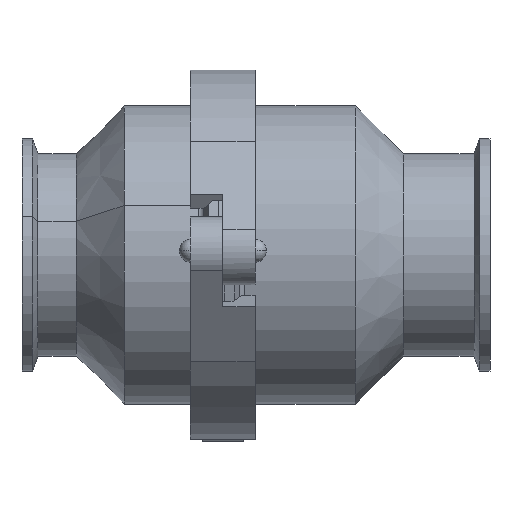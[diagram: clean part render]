
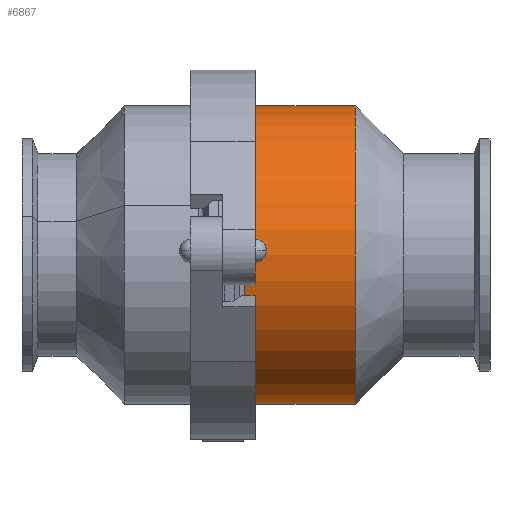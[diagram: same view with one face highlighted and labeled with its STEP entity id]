
A CAD part, left-side view. The second image highlights one B-rep face of the part: STEP entity #6867.
In plain terms, the highlighted cylindrical face has radius 40.958 mm (diameter 81.915 mm), a partial arc.
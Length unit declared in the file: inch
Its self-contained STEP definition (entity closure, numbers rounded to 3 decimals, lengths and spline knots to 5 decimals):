
#208 = ORIENTED_EDGE ( 'NONE', *, *, #12343, .T. ) ;
#421 = CARTESIAN_POINT ( 'NONE',  ( 0.83499, 1.01794, 5.05154 ) ) ;
#495 = ORIENTED_EDGE ( 'NONE', *, *, #10964, .F. ) ;
#552 = DIRECTION ( 'NONE',  ( 0., -1., 0. ) ) ;
#932 = ORIENTED_EDGE ( 'NONE', *, *, #9522, .T. ) ;
#1076 = CARTESIAN_POINT ( 'NONE',  ( 0.83499, 1.23847, 5.05154 ) ) ;
#1170 = VERTEX_POINT ( 'NONE', #421 ) ;
#1487 = VERTEX_POINT ( 'NONE', #2303 ) ;
#2068 = AXIS2_PLACEMENT_3D ( 'NONE', #9972, #4062, #10950 ) ;
#2303 = CARTESIAN_POINT ( 'NONE',  ( 0.83499, -0.18153, 5.05154 ) ) ;
#2331 = CARTESIAN_POINT ( 'NONE',  ( 0.83499, 1.01794, 1.82654 ) ) ;
#3427 = DIRECTION ( 'NONE',  ( 0., -1., 0. ) ) ;
#3557 = EDGE_LOOP ( 'NONE', ( #495, #932, #208, #11020 ) ) ;
#3675 = CIRCLE ( 'NONE', #2068, 1.6125 ) ;
#4062 = DIRECTION ( 'NONE',  ( 0., -1., 0. ) ) ;
#4069 = CARTESIAN_POINT ( 'NONE',  ( 0.83499, 1.23847, 3.43904 ) ) ;
#5305 = CYLINDRICAL_SURFACE ( 'NONE', #12528, 1.6125 ) ;
#5496 = CARTESIAN_POINT ( 'NONE',  ( 0.83499, 1.23847, 1.82654 ) ) ;
#5977 = LINE ( 'NONE', #1076, #11209 ) ;
#6015 = DIRECTION ( 'NONE',  ( 0., -1., 0. ) ) ;
#6056 = DIRECTION ( 'NONE',  ( 0., -1., 0. ) ) ;
#6277 = VERTEX_POINT ( 'NONE', #2331 ) ;
#6847 = AXIS2_PLACEMENT_3D ( 'NONE', #9319, #3427, #10334 ) ;
#6867 = ADVANCED_FACE ( 'NONE', ( #7919 ), #5305, .T. ) ;
#7649 = VERTEX_POINT ( 'NONE', #8950 ) ;
#7882 = EDGE_CURVE ( 'NONE', #1487, #7649, #11293, .T. ) ;
#7919 = FACE_OUTER_BOUND ( 'NONE', #3557, .T. ) ;
#8283 = VECTOR ( 'NONE', #552, 39.37008 ) ;
#8950 = CARTESIAN_POINT ( 'NONE',  ( 0.83499, -0.18153, 1.82654 ) ) ;
#9319 = CARTESIAN_POINT ( 'NONE',  ( 0.83499, -0.18153, 3.43904 ) ) ;
#9522 = EDGE_CURVE ( 'NONE', #1170, #6277, #3675, .T. ) ;
#9972 = CARTESIAN_POINT ( 'NONE',  ( 0.83499, 1.01794, 3.43904 ) ) ;
#10334 = DIRECTION ( 'NONE',  ( 0., 0., -1. ) ) ;
#10950 = DIRECTION ( 'NONE',  ( 0., 0., -1. ) ) ;
#10964 = EDGE_CURVE ( 'NONE', #1170, #1487, #5977, .T. ) ;
#11020 = ORIENTED_EDGE ( 'NONE', *, *, #7882, .F. ) ;
#11186 = LINE ( 'NONE', #5496, #8283 ) ;
#11209 = VECTOR ( 'NONE', #6015, 39.37008 ) ;
#11293 = CIRCLE ( 'NONE', #6847, 1.6125 ) ;
#11935 = DIRECTION ( 'NONE',  ( 0., 0., -1. ) ) ;
#12343 = EDGE_CURVE ( 'NONE', #6277, #7649, #11186, .T. ) ;
#12528 = AXIS2_PLACEMENT_3D ( 'NONE', #4069, #6056, #11935 ) ;
